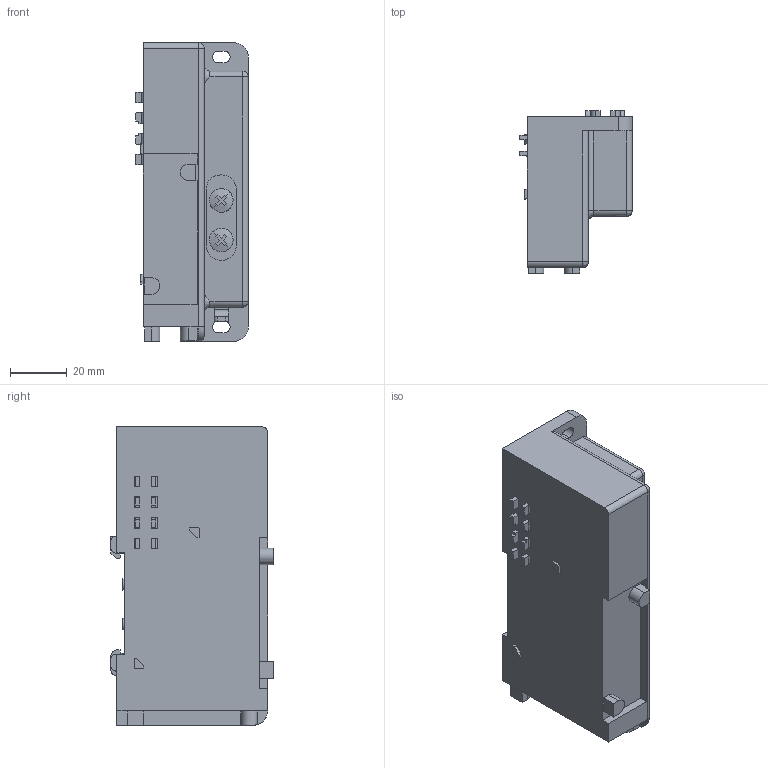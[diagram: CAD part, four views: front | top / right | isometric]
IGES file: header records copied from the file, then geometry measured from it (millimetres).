
Start section: ------------------------------------------------------------------------
Global section: file name: D:\ICADMX\tmp\trans3d_spg\CVICAD02.4564.F15ZX-RN-DN_16544.igs; native system: spGate; preprocessor: ver12.6.6; author: Unknown; organization: Unknown; date: 210712.184733; units: millimetre
Bounding box: 39.6 x 57.2 x 105 mm (x, y, z)
Volume: 154385.2 mm3; surface area: 23630.6 mm2
Topology: 1 solids, 1 shells, 324 faces, 877 edges, 578 vertices
Faces by surface type: bspline 324
